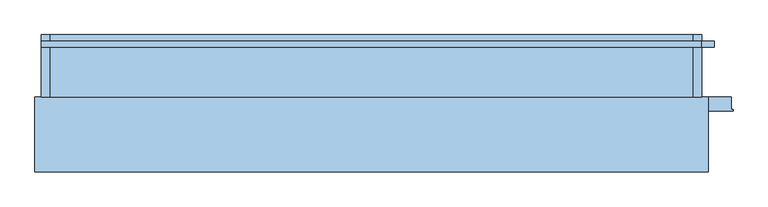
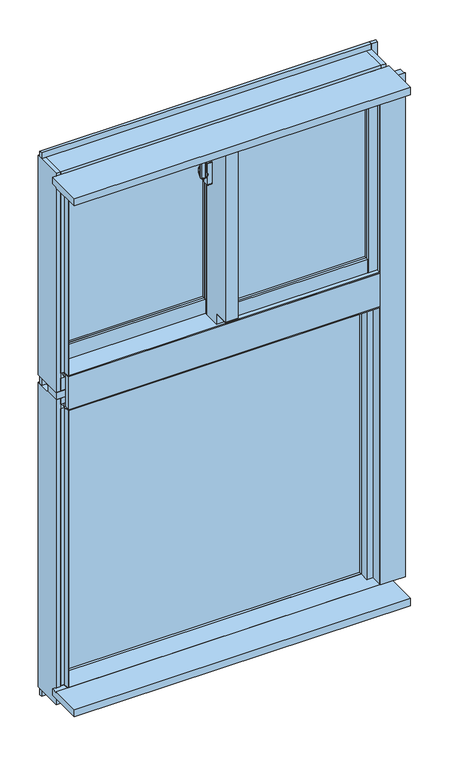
"""IFC4 building model written with IfcOpenShell, lengths in millimetres: window geometry, FNSⅡ100R_非防火_面付枠_段窓_分解無目 : たてすべりだし/FIX."""

from ifc_helpers import new_model, si_unit, point, frame, frame_2d, origin, place, context, project, spatial, polyline, circle_curve, trimmed, segment, composite_curve, outline, extrude, faceted_brep, source, transform, mapped, element, save
from ifc_brep_helpers import plane_surface, cylinder_surface, revolved_surface, advanced_brep


def window_47481d52(model_context):
    return source(origin(), model_context, "Body", "SolidModel", [
        extrude(outline(composite_curve([segment(polyline([(-39.0, 34.6), (-39.0, 26.4)]), True, "CONTINUOUS"), segment(trimmed(circle_curve(frame_2d((-41.0, 26.4)), 2.0), [point((-39.0, 26.4))], [point((-41.3606557, 24.4327869))], False, "CARTESIAN"), True, "CONTINUOUS"), segment(polyline([(-41.3606557, 24.4327869), (-52.3606557, 26.4494536)]), True, "CONTINUOUS"), segment(trimmed(circle_curve(frame_2d((-52.0, 28.4166667)), 2.0), [point((-52.3606557, 26.4494536))], [point((-54.0, 28.4166667))], False, "CARTESIAN"), True, "CONTINUOUS"), segment(polyline([(-54.0, 28.4166667), (-54.0, 32.5833333)]), True, "CONTINUOUS"), segment(trimmed(circle_curve(frame_2d((-52.0, 32.5833333)), 2.0), [point((-54.0, 32.5833333))], [point((-52.3606557, 34.5505464))], False, "CARTESIAN"), True, "CONTINUOUS"), segment(polyline([(-52.3606557, 34.5505464), (-41.3606557, 36.5672131)]), True, "CONTINUOUS"), segment(trimmed(circle_curve(frame_2d((-41.0, 34.6)), 2.0), [point((-41.3606557, 36.5672131))], [point((-39.0, 34.6))], False, "CARTESIAN"), True, "CONTINUOUS")], self_intersect=False)), frame((0.0, 0.0, 2450.0), z_axis=(0.0, 0.0, 1.0), x_axis=(1.0, 0.0, 0.0)), (0.0, 0.0, 1.0), 100.0),
        advanced_brep(
        [(-37.5, 38.8234285, 2481.7333311), (-45.5, 38.8234285, 2481.7333311), (-45.5, 38.4351999, 2480.2844424), (-39.0, 38.4351999, 2480.2844424), (-39.0, 36.6234666, 2473.5229616), (-37.5, 36.6234666, 2473.5229616), (-39.0, 36.6466117, 2439.3190372), (-45.5, 36.6466117, 2439.3190372), (-45.5, 36.907084, 2437.8418256), (-37.5, 36.907084, 2437.8418256), (-37.5, 35.4310745, 2446.2126915), (-39.0, 35.4310745, 2446.2126915)],
        [
            (0, 1),
            (1, 2),
            (2, 3),
            (3, 4),
            (4, 5),
            (5, 0),
            (6, 7),
            (7, 8),
            (8, 9),
            (9, 10),
            (10, 11),
            (11, 6),
            (0, 9, circle_curve(frame((-37.5, 33.0, 2460.0), z_axis=(-1.0, 0.0, 0.0), x_axis=(0.0, 0.25881904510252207, 0.965925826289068)), 22.5)),
            (8, 1, circle_curve(frame((-45.5, 33.0, 2460.0), z_axis=(1.0, 0.0, 0.0), x_axis=(0.0, 0.25881904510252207, 0.965925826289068)), 22.5)),
            (7, 2, circle_curve(frame((-45.5, 33.0, 2460.0), z_axis=(1.0, 0.0, 0.0), x_axis=(0.0, 0.25881904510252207, 0.965925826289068)), 21.0)),
            (6, 3, circle_curve(frame((-39.0, 33.0, 2460.0), z_axis=(1.0, 0.0, 0.0), x_axis=(0.0, 0.25881904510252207, 0.965925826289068)), 21.0)),
            (11, 4, circle_curve(frame((-39.0, 33.0, 2460.0), z_axis=(-1.0, 0.0, 0.0), x_axis=(0.0, -1.0, 0.0)), 14.0)),
            (5, 10, circle_curve(frame((-37.5, 33.0, 2460.0), z_axis=(1.0, 0.0, 0.0), x_axis=(0.0, -1.0, 0.0)), 14.0)),
        ],
        [
            plane_surface(frame((-43.5470497, 33.0, 2460.0), z_axis=(0.0, -0.965925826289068, 0.25881904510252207), x_axis=(0.0, 0.25881904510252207, 0.965925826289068))),
            plane_surface(frame((-43.5470497, 33.0, 2460.0), z_axis=(0.0, -0.9848077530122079, -0.17364817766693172), x_axis=(0.0, 0.17364817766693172, -0.9848077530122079))),
            cylinder_surface(frame((-43.5470497, 33.0, 2460.0), z_axis=(-1.0, 0.0, 0.0), x_axis=(0.0, 0.25881904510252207, 0.965925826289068)), 22.5),
            plane_surface(frame((-45.5, 33.0, 2460.0), z_axis=(-1.0, 0.0, 0.0), x_axis=(0.0, 0.25881904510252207, 0.965925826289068))),
            revolved_surface(polyline([(-45.5, 38.43519994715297, 2480.2844423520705), (-39.0, 38.43519994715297, 2480.2844423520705)]), (-43.5470497, 33.0, 2460.0), (-1.0, 0.0, 0.0)),
            plane_surface(frame((-39.0, 33.0, 2460.0), z_axis=(-1.0, 0.0, 0.0), x_axis=(0.0, 0.25881904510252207, 0.965925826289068))),
            plane_surface(frame((-37.5, 33.0, 2460.0), z_axis=(1.0, 0.0, 0.0), x_axis=(0.0, 0.25881904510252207, 0.965925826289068))),
            cylinder_surface(frame((-37.5, 33.0, 2460.0), z_axis=(-1.0, 0.0, 0.0), x_axis=(0.0, -1.0, 0.0)), 14.0),
        ],
        [
            (0, [[1, 2, 3, 4, 5, 6]]),
            (1, [[7, 8, 9, 10, 11, 12]]),
            (2, [[-1, 13, -9, 14]]),
            (3, [[-2, -14, -8, 15]]),
            (4, [[-3, -15, -7, 16]]),
            (5, [[-16, -12, 17, -4]]),
            (6, [[-13, -6, 18, -10]]),
            (7, [[-17, -11, -18, -5]]),
        ],
    ),
        extrude(outline(composite_curve([segment(trimmed(circle_curve(frame_2d((33.0, 2460.0)), 11.5), [point((44.5, 2460.0))], [point((21.5, 2460.0))], False, "CARTESIAN"), True, "CONTINUOUS"), segment(trimmed(circle_curve(frame_2d((33.0, 2460.0)), 11.5), [point((21.5, 2460.0))], [point((44.5, 2460.0))], False, "CARTESIAN"), True, "CONTINUOUS")], self_intersect=False)), frame((-37.5, 0.0, 0.0), z_axis=(1.0, 0.0, 0.0), x_axis=(0.0, 1.0, 0.0)), (0.0, 0.0, 1.0), 2.5),
        extrude(outline(composite_curve([segment(polyline([(24.0, 2497.5), (42.0, 2497.5)]), True, "CONTINUOUS"), segment(trimmed(circle_curve(frame_2d((42.0, 2495.5)), 2.0), [point((42.0, 2497.5))], [point((44.0, 2495.5))], False, "CARTESIAN"), True, "CONTINUOUS"), segment(polyline([(44.0, 2495.5), (44.0, 2424.5)]), True, "CONTINUOUS"), segment(trimmed(circle_curve(frame_2d((42.0, 2424.5)), 2.0), [point((44.0, 2424.5))], [point((42.0, 2422.5))], False, "CARTESIAN"), True, "CONTINUOUS"), segment(polyline([(42.0, 2422.5), (24.0, 2422.5)]), True, "CONTINUOUS"), segment(trimmed(circle_curve(frame_2d((24.0, 2424.5)), 2.0), [point((24.0, 2422.5))], [point((22.0, 2424.5))], False, "CARTESIAN"), True, "CONTINUOUS"), segment(polyline([(22.0, 2424.5), (22.0, 2495.5)]), True, "CONTINUOUS"), segment(trimmed(circle_curve(frame_2d((24.0, 2495.5)), 2.0), [point((22.0, 2495.5))], [point((24.0, 2497.5))], False, "CARTESIAN"), True, "CONTINUOUS")], self_intersect=False)), frame((-35.0, 0.0, 0.0), z_axis=(1.0, 0.0, 0.0), x_axis=(0.0, 1.0, 0.0)), (0.0, 0.0, 1.0), 15.0),
        extrude(outline(polyline([(20.0, 24.0), (468.0, 24.0), (468.0, 18.0), (20.0, 18.0), (20.0, 24.0)])), frame((0.0, 0.0, 2008.0), z_axis=(0.0, 0.0, 1.0), x_axis=(1.0, 0.0, 0.0)), (0.0, 0.0, 1.0), 562.0),
        extrude(outline(polyline([(20.0, 42.0), (468.0, 42.0), (468.0, 36.0), (20.0, 36.0), (20.0, 42.0)])), frame((0.0, 0.0, 2008.0), z_axis=(0.0, 0.0, 1.0), x_axis=(1.0, 0.0, 0.0)), (0.0, 0.0, 1.0), 562.0),
        extrude(outline(polyline([(-468.0, 82.0), (-20.0, 82.0), (-20.0, 76.0), (-468.0, 76.0), (-468.0, 82.0)])), frame((0.0, 0.0, 2008.0), z_axis=(0.0, 0.0, 1.0), x_axis=(1.0, 0.0, 0.0)), (0.0, 0.0, 1.0), 562.0),
        extrude(outline(polyline([(-468.0, 100.0), (-20.0, 100.0), (-20.0, 94.0), (-468.0, 94.0), (-468.0, 100.0)])), frame((0.0, 0.0, 2008.0), z_axis=(0.0, 0.0, 1.0), x_axis=(1.0, 0.0, 0.0)), (0.0, 0.0, 1.0), 562.0),
        faceted_brep([(-500.0, 79.0, 2610.0), (-489.5, 79.0, 2610.0), (-489.5, 66.0, 2610.0), (-468.0, 66.0, 2610.0), (-468.0, 108.0, 2610.0), (-500.0, 108.0, 2610.0), (-468.0, 66.0, 1960.0), (-468.0, 79.0, 1960.0), (-468.0, 79.0, 1920.0), (-468.0, 108.0, 1920.0), (-500.0, 79.0, 1920.0), (-500.0, 108.0, 1920.0), (-489.5, 79.0, 1960.0), (-489.5, 66.0, 1960.0)], [[[0, 1, 2, 3, 4, 5]], [[4, 3, 6, 7, 8, 9]], [[10, 0, 5, 11]], [[8, 10, 11, 9]], [[1, 0, 10, 8, 7, 12]], [[2, 1, 12, 13]], [[3, 2, 13, 6]], [[5, 4, 9, 11]], [[12, 7, 6, 13]]]),
        faceted_brep([(20.0, 79.0, 1960.0), (-20.0, 79.0, 1960.0), (-20.0, 79.0, 1920.0), (20.0, 79.0, 1920.0), (-20.0, 65.5, 2610.0), (-1.8, 65.5, 2610.0), (-1.8, 53.1, 2610.0), (20.0, 53.1, 2610.0), (20.0, 108.0, 2610.0), (-20.0, 108.0, 2610.0), (-20.0, 108.0, 1920.0), (20.0, 108.0, 1920.0), (-20.0, 65.5, 1960.0), (-1.8, 65.5, 1960.0), (-1.8, 53.1, 1960.0), (20.0, 53.1, 1960.0)], [[[0, 1, 2, 3]], [[4, 5, 6, 7, 8, 9]], [[10, 11, 3, 2]], [[5, 4, 12, 13]], [[6, 5, 13, 14]], [[7, 6, 14, 15]], [[8, 7, 15, 0, 3, 11]], [[9, 8, 11, 10]], [[4, 9, 10, 2, 1, 12]], [[1, 0, 15, 14, 13, 12]]]),
        faceted_brep([(-15.0, 53.1, 2610.0), (-20.0, 53.1, 2610.0), (-20.0, 0.0, 2610.0), (-15.0, 0.0, 2610.0), (20.0, 12.0, 2610.0), (15.0, 12.0, 2610.0), (15.0, 0.0, 2610.0), (20.0, 0.0, 2610.0), (-20.0, 53.1, 1960.0), (-20.0, 0.0, 1960.0), (-20.0, 0.0, 1996.5), (-20.0, -50.0, 1996.5), (-20.0, -50.0, 2581.0), (-20.0, 0.0, 2581.0), (15.0, -42.0, 2581.0), (15.0, -42.0, 1996.5), (-15.0, -42.0, 1996.5), (-15.0, -42.0, 2581.0), (-15.0, 53.1, 1960.0), (-15.0, 0.0, 2581.0), (-15.0, 0.0, 1996.5), (-15.0, 0.0, 1960.0), (15.0, 12.0, 1960.0), (20.0, 12.0, 1960.0), (20.0, 0.0, 1960.0), (15.0, 0.0, 1960.0), (20.0, -50.0, 1996.5), (20.0, -50.0, 2581.0), (20.0, 0.0, 2581.0), (20.0, 0.0, 1996.5), (15.0, 0.0, 1996.5), (15.0, 0.0, 2581.0)], [[[0, 1, 2, 3]], [[4, 5, 6, 7]], [[1, 8, 9, 10, 11, 12, 13, 2]], [[14, 15, 16, 17]], [[18, 0, 3, 19, 17, 16, 20, 21]], [[8, 18, 21, 9]], [[22, 23, 24, 25]], [[12, 11, 26, 27]], [[23, 4, 7, 28, 27, 26, 29, 24]], [[1, 0, 18, 8]], [[5, 4, 23, 22]], [[5, 22, 25, 30, 15, 14, 31, 6]], [[20, 10, 9, 21]], [[29, 30, 25, 24]], [[10, 20, 16, 15, 30, 29, 26, 11]], [[19, 13, 12, 27, 28, 31, 14, 17]], [[13, 19, 3, 2]], [[31, 28, 7, 6]]]),
        faceted_brep([(15.0, 12.0, 2610.0), (20.0, 12.0, 2610.0), (20.0, 53.1, 2610.0), (-15.0, 53.1, 2610.0), (-15.0, 0.0, 2610.0), (15.0, 0.0, 2610.0), (-15.0, -42.0, 2581.0), (-15.0, -42.0, 1996.5), (15.0, -42.0, 1996.5), (15.0, -42.0, 2581.0), (20.0, 53.1, 1960.0), (-15.0, 53.1, 1960.0), (15.0, 0.0, 2581.0), (-15.0, 0.0, 2581.0), (20.0, 12.0, 1960.0), (15.0, 12.0, 1960.0), (15.0, 0.0, 1960.0), (-15.0, 0.0, 1960.0), (-15.0, 0.0, 1996.5), (15.0, 0.0, 1996.5)], [[[0, 1, 2, 3, 4, 5]], [[6, 7, 8, 9]], [[3, 2, 10, 11]], [[12, 13, 6, 9]], [[11, 10, 14, 15, 16, 17]], [[3, 11, 17, 18, 7, 6, 13, 4]], [[2, 1, 14, 10]], [[19, 18, 17, 16]], [[18, 19, 8, 7]], [[13, 12, 5, 4]], [[15, 0, 5, 12, 9, 8, 19, 16]], [[1, 0, 15, 14]]]),
        extrude(outline(polyline([(468.0, 0.0), (468.0, 8.0), (489.5, 8.0), (489.5, 21.0), (497.0, 21.0), (497.0, 0.0), (468.0, 0.0)])), frame((0.0, 0.0, 1963.0), z_axis=(0.0, 0.0, 1.0), x_axis=(1.0, 0.0, 0.0)), (0.0, 0.0, 1.0), 647.0),
        extrude(outline(polyline([(468.0, 50.0), (500.0, 50.0), (500.0, 21.0), (489.5, 21.0), (489.5, 8.0), (468.0, 8.0), (468.0, 50.0)])), frame((0.0, 0.0, 1960.0), z_axis=(0.0, 0.0, 1.0), x_axis=(1.0, 0.0, 0.0)), (0.0, 0.0, 1.0), 650.0),
        extrude(outline(polyline([(-1.85, 65.5), (-1.85, 58.0), (-20.0, 58.0), (-20.0, 65.5), (-1.85, 65.5)])), frame((0.0, 0.0, 1960.0), z_axis=(0.0, 0.0, 1.0), x_axis=(1.0, 0.0, 0.0)), (0.0, 0.0, 1.0), 650.0),
        extrude(outline(polyline([(-497.0, 79.0), (-489.5, 79.0), (-489.5, 66.0), (-468.0, 66.0), (-468.0, 58.0), (-497.0, 58.0), (-497.0, 79.0)])), frame((0.0, 0.0, 1960.0), z_axis=(0.0, 0.0, 1.0), x_axis=(1.0, 0.0, 0.0)), (0.0, 0.0, 1.0), 650.0),
        extrude(outline(polyline([(2.0, 1963.0), (2.0, 2008.0), (10.0, 2008.0), (10.0, 1985.5), (21.0, 1985.5), (21.0, 1963.0), (2.0, 1963.0)])), frame((20.0, 0.0, 0.0), z_axis=(1.0, 0.0, 0.0), x_axis=(0.0, 1.0, 0.0)), (0.0, 0.0, 1.0), 448.0),
        extrude(outline(polyline([(50.0, 1960.0), (21.0, 1960.0), (21.0, 1985.5), (10.0, 1985.5), (10.0, 2008.0), (50.0, 2008.0), (50.0, 1960.0)])), frame((20.0, 0.0, 0.0), z_axis=(1.0, 0.0, 0.0), x_axis=(0.0, 1.0, 0.0)), (0.0, 0.0, 1.0), 448.0),
        extrude(outline(polyline([(60.0, 2008.0), (68.0, 2008.0), (68.0, 1985.5), (79.0, 1985.5), (79.0, 1960.0), (60.0, 1960.0), (60.0, 2008.0)])), frame((-468.0, 0.0, 0.0), z_axis=(1.0, 0.0, 0.0), x_axis=(0.0, 1.0, 0.0)), (0.0, 0.0, 1.0), 448.0),
        extrude(outline(polyline([(108.0, 1920.0), (79.0, 1920.0), (79.0, 1985.5), (68.0, 1985.5), (68.0, 2008.0), (108.0, 2008.0), (108.0, 1920.0)])), frame((-468.0, 0.0, 0.0), z_axis=(1.0, 0.0, 0.0), x_axis=(0.0, 1.0, 0.0)), (0.0, 0.0, 1.0), 448.0),
        extrude(outline(polyline([(23.0, 2590.5), (10.0, 2590.5), (10.0, 2570.0), (2.0, 2570.0), (2.0, 2610.0), (23.0, 2610.0), (23.0, 2590.5)])), frame((20.0, 0.0, 0.0), z_axis=(1.0, 0.0, 0.0), x_axis=(0.0, 1.0, 0.0)), (0.0, 0.0, 1.0), 448.0),
        extrude(outline(polyline([(50.0, 2610.0), (50.0, 2570.0), (10.0, 2570.0), (10.0, 2590.5), (23.0, 2590.5), (23.0, 2610.0), (50.0, 2610.0)])), frame((20.0, 0.0, 0.0), z_axis=(1.0, 0.0, 0.0), x_axis=(0.0, 1.0, 0.0)), (0.0, 0.0, 1.0), 448.0),
        extrude(outline(polyline([(81.0, 2590.5), (68.0, 2590.5), (68.0, 2570.0), (60.0, 2570.0), (60.0, 2610.0), (81.0, 2610.0), (81.0, 2590.5)])), frame((-468.0, 0.0, 0.0), z_axis=(1.0, 0.0, 0.0), x_axis=(0.0, 1.0, 0.0)), (0.0, 0.0, 1.0), 448.0),
        extrude(outline(polyline([(108.0, 2610.0), (108.0, 2570.0), (68.0, 2570.0), (68.0, 2590.5), (81.0, 2590.5), (81.0, 2610.0), (108.0, 2610.0)])), frame((-468.0, 0.0, 0.0), z_axis=(1.0, 0.0, 0.0), x_axis=(0.0, 1.0, 0.0)), (0.0, 0.0, 1.0), 448.0),
        extrude(outline(polyline([(0.0, 2581.0), (-50.0, 2581.0), (-50.0, 2582.0), (-1.0, 2582.0), (-1.0, 2610.0), (0.0, 2610.0), (0.0, 2581.0)])), frame((-20.0, 0.0, 0.0), z_axis=(1.0, 0.0, 0.0), x_axis=(0.0, 1.0, 0.0)), (0.0, 0.0, 1.0), 40.0),
        extrude(outline(polyline([(0.0, 1996.5), (0.0, 1960.0), (-1.0, 1960.0), (-1.0, 1995.5), (-50.0, 1995.5), (-50.0, 1996.5), (0.0, 1996.5)])), frame((-20.0, 0.0, 0.0), z_axis=(1.0, 0.0, 0.0), x_axis=(0.0, 1.0, 0.0)), (0.0, 0.0, 1.0), 40.0),
        extrude(outline(polyline([(-15.0, 80.3), (-15.0, 31.9), (-500.0, 31.9), (-500.0, 80.3), (-15.0, 80.3)])), frame((0.0, 0.0, 2610.0), z_axis=(0.0, 0.0, 1.0), x_axis=(1.0, 0.0, 0.0)), (0.0, 0.0, 1.0), 25.0),
        faceted_brep([(515.0, 80.3, 2610.0), (515.0, 80.3, 2635.0), (500.0, 80.3, 2635.0), (500.0, 80.3, 2610.0), (-515.0, 80.3, 2635.0), (-515.0, 80.3, 2610.0), (-15.0, 80.3, 2610.0), (-15.0, 80.3, 2635.0), (515.0, 10.0, 2635.0), (-515.0, 10.0, 2635.0), (-15.0, 31.9, 2635.0), (500.0, 31.9, 2635.0), (515.0, 110.0, 2610.0), (500.0, 31.9, 2610.0), (-15.0, 31.9, 2610.0), (-515.0, 110.0, 2610.0), (515.0, 110.0, 2645.0), (-515.0, 110.0, 2645.0), (515.0, 10.0, 2645.0), (-515.0, 10.0, 2645.0)], [[[0, 1, 2, 3]], [[4, 5, 6, 7]], [[1, 8, 9, 4, 7, 10, 11, 2]], [[12, 0, 3, 13, 14, 6, 5, 15]], [[16, 12, 15, 17]], [[18, 16, 17, 19]], [[8, 18, 19, 9]], [[12, 16, 18, 8, 1, 0]], [[15, 5, 4, 9, 19, 17]], [[11, 13, 3, 2]], [[6, 14, 10, 7]], [[13, 11, 10, 14]]]),
        extrude(outline(polyline([(31.9, 2610.0), (-10.0, 2610.0), (-10.0, 2613.0), (10.0, 2613.0), (10.0, 2635.0), (31.9, 2635.0), (31.9, 2610.0)])), frame((-500.0, 0.0, 0.0), z_axis=(1.0, 0.0, 0.0), x_axis=(0.0, 1.0, 0.0)), (0.0, 0.0, 1.0), 1000.0),
        faceted_brep([(500.0, 10.0, 2630.0), (500.0, 10.0, 2613.0), (503.0, 10.0, 2613.0), (503.0, 10.0, 1960.0), (515.0, 10.0, 1960.0), (515.0, 10.0, 2630.0), (500.0, 14.5, 1960.0), (500.0, -10.0, 1960.0), (500.0, -10.0, 2613.0), (500.0, 14.5, 2630.0), (515.0, 14.5, 1960.0), (503.0, -10.0, 1960.0), (503.0, -10.0, 2613.0), (515.0, 14.5, 2630.0)], [[[0, 1, 2, 3, 4, 5]], [[6, 7, 8, 1, 0, 9]], [[7, 6, 10, 4, 3, 11]], [[11, 3, 2, 12]], [[7, 11, 12, 8]], [[0, 5, 13, 9]], [[13, 5, 4, 10]], [[9, 13, 10, 6]], [[2, 1, 8, 12]]]),
        faceted_brep([(-515.0, 76.0, 2630.0), (-500.0, 76.0, 2630.0), (-500.0, 76.0, 1960.0), (-515.0, 76.0, 1960.0), (-515.0, 10.0, 1960.0), (-500.0, -10.0, 1960.0), (-503.0, -10.0, 1960.0), (-503.0, 10.0, 1960.0), (-503.0, 10.0, 2613.0), (-500.0, 10.0, 2613.0), (-500.0, 10.0, 2630.0), (-515.0, 10.0, 2630.0), (-503.0, -10.0, 2613.0), (-500.0, -10.0, 2613.0)], [[[0, 1, 2, 3]], [[4, 3, 2, 5, 6, 7]], [[4, 7, 8, 9, 10, 11]], [[11, 10, 1, 0]], [[7, 6, 12, 8]], [[6, 5, 13, 12]], [[5, 2, 1, 10, 9, 13]], [[4, 11, 0, 3]], [[9, 8, 12, 13]]]),
        faceted_brep([(500.0, 14.5, 2610.0), (500.0, 110.0, 2610.0), (500.0, 110.0, 1909.0), (500.0, 14.5, 1909.0), (515.0, 14.5, 2610.0), (515.0, 14.5, 1909.0), (515.0, 10.0, 2645.0), (530.0, 10.0, 2645.0), (530.0, 110.0, 2645.0), (515.0, 110.0, 2645.0), (515.0, 10.0, 1900.0), (515.0, 110.0, 1900.0), (530.0, 110.0, 1900.0), (530.0, 10.0, 1900.0), (515.0, 110.0, 2610.0), (515.0, 110.0, 1909.0)], [[[0, 1, 2, 3]], [[4, 0, 3, 5]], [[6, 7, 8, 9]], [[10, 11, 12, 13]], [[0, 4, 14, 1]], [[3, 2, 15, 5]], [[7, 6, 10, 13]], [[8, 7, 13, 12]], [[9, 8, 12, 11, 15, 2, 1, 14]], [[6, 9, 14, 4, 5, 15, 11, 10]]]),
        faceted_brep([(-530.0, 10.0, 2645.0), (-530.0, 110.0, 2645.0), (-530.0, 110.0, 1900.0), (-530.0, 10.0, 1900.0), (-515.0, 110.0, 2645.0), (-515.0, 10.0, 2645.0), (-515.0, 10.0, 1900.0), (-515.0, 110.0, 1900.0), (-515.0, 110.0, 1909.0), (-515.0, 76.0, 1909.0), (-515.0, 76.0, 2610.0), (-515.0, 110.0, 2610.0), (-500.0, 110.0, 2610.0), (-500.0, 110.0, 1909.0), (-500.0, 76.0, 2610.0), (-500.0, 76.0, 1909.0)], [[[0, 1, 2, 3]], [[4, 5, 6, 7, 8, 9, 10, 11]], [[1, 0, 5, 4]], [[2, 7, 6, 3]], [[5, 0, 3, 6]], [[1, 4, 11, 12, 13, 8, 7, 2]], [[12, 11, 10, 14]], [[13, 15, 9, 8]], [[14, 10, 9, 15]], [[12, 14, 15, 13]]]),
        faceted_brep([(515.0, 76.0, 1909.0), (515.0, 110.0, 1909.0), (-515.0, 110.0, 1909.0), (-515.0, 76.0, 1909.0), (515.0, 10.0, 1944.0), (515.0, 76.0, 1944.0), (-515.0, 76.0, 1944.0), (-515.0, 10.0, 1944.0), (500.0, 37.25, 1944.0), (500.0, 18.8, 1944.0), (-15.0, 18.8, 1944.0), (-15.0, 37.25, 1944.0), (515.0, 110.0, 1900.0), (515.0, 10.0, 1900.0), (-515.0, 10.0, 1900.0), (-515.0, 110.0, 1900.0), (500.0, 18.8, 1960.0), (500.0, 37.25, 1960.0), (-15.0, 18.8, 1960.0), (-15.0, 37.25, 1960.0)], [[[0, 1, 2, 3]], [[4, 5, 6, 7], [8, 9, 10, 11]], [[5, 0, 3, 6]], [[12, 13, 14, 15]], [[12, 1, 0, 5, 4, 13]], [[15, 14, 7, 6, 3, 2]], [[13, 4, 7, 14]], [[1, 12, 15, 2]], [[16, 9, 8, 17]], [[18, 19, 11, 10]], [[9, 16, 18, 10]], [[17, 8, 11, 19]], [[16, 17, 19, 18]]]),
        faceted_brep([(503.0, -10.0, 1960.0), (503.0, -10.0, 1957.0), (503.0, 10.0, 1957.0), (503.0, 10.0, 1944.0), (503.0, 14.5, 1944.0), (503.0, 14.5, 1960.0), (-503.0, 10.0, 1944.0), (-503.0, 10.0, 1957.0), (-503.0, -10.0, 1957.0), (-503.0, -10.0, 1960.0), (-503.0, 18.8, 1960.0), (-503.0, 18.8, 1944.0), (500.0, 14.5, 1960.0), (500.0, 18.8, 1960.0), (-15.0, 18.8, 1960.0), (-15.0, 76.0, 1960.0), (-500.0, 76.0, 1960.0), (-500.0, 18.8, 1960.0), (500.0, 14.5, 1944.0), (-500.0, 18.8, 1944.0), (500.0, 18.8, 1944.0), (-15.0, 18.8, 1944.0), (-500.0, 76.0, 1944.0), (-15.0, 76.0, 1944.0)], [[[0, 1, 2, 3, 4, 5]], [[6, 7, 8, 9, 10, 11]], [[3, 2, 7, 6]], [[2, 1, 8, 7]], [[1, 0, 9, 8]], [[10, 9, 0, 5, 12, 13, 14, 15, 16, 17]], [[18, 12, 5, 4]], [[11, 10, 17, 19]], [[13, 20, 21, 14]], [[6, 11, 19, 22, 23, 21, 20, 18, 4, 3]], [[12, 18, 20, 13]], [[15, 14, 21, 23]], [[16, 22, 19, 17]], [[15, 23, 22, 16]]]),
        extrude(outline(polyline([(-480.0, 75.6), (480.0, 75.6), (480.0, 69.6), (-480.0, 69.6), (-480.0, 75.6)])), frame((0.0, 0.0, 900.0), z_axis=(0.0, 0.0, 1.0), x_axis=(1.0, 0.0, 0.0)), (0.0, 0.0, 1.0), 920.0),
        extrude(outline(polyline([(-480.0, 93.6), (480.0, 93.6), (480.0, 87.6), (-480.0, 87.6), (-480.0, 93.6)])), frame((0.0, 0.0, 900.0), z_axis=(0.0, 0.0, 1.0), x_axis=(1.0, 0.0, 0.0)), (0.0, 0.0, 1.0), 920.0),
        faceted_brep([(-530.0, 110.0, 1875.0), (-530.0, 10.0, 1875.0), (-515.0, 10.0, 1875.0), (-515.0, 110.0, 1875.0), (-530.0, 110.0, 840.0), (-515.0, 110.0, 840.0), (-515.0, 10.0, 840.0), (-530.0, 10.0, 840.0), (-515.0, 110.0, 900.0), (-515.0, 60.0, 900.0), (-515.0, 60.0, 1820.0), (-515.0, 110.0, 1820.0), (-480.0, 110.0, 1820.0), (-480.0, 110.0, 900.0), (-480.0, 60.0, 1820.0), (-480.0, 60.0, 900.0)], [[[0, 1, 2, 3]], [[4, 5, 6, 7]], [[1, 0, 4, 7]], [[2, 1, 7, 6]], [[3, 2, 6, 5, 8, 9, 10, 11]], [[0, 3, 11, 12, 13, 8, 5, 4]], [[12, 11, 10, 14]], [[13, 15, 9, 8]], [[14, 10, 9, 15]], [[12, 14, 15, 13]]]),
        faceted_brep([(530.0, 110.0, 1875.0), (515.0, 110.0, 1875.0), (515.0, 10.0, 1875.0), (530.0, 10.0, 1875.0), (530.0, 110.0, 840.0), (530.0, 10.0, 840.0), (515.0, 10.0, 840.0), (515.0, 110.0, 840.0), (515.0, 110.0, 900.0), (480.0, 110.0, 900.0), (480.0, 110.0, 1820.0), (515.0, 110.0, 1820.0), (515.0, 60.0, 1820.0), (515.0, 60.0, 900.0), (480.0, 60.0, 1820.0), (480.0, 60.0, 900.0)], [[[0, 1, 2, 3]], [[4, 5, 6, 7]], [[1, 0, 4, 7, 8, 9, 10, 11]], [[2, 1, 11, 12, 13, 8, 7, 6]], [[3, 2, 6, 5]], [[0, 3, 5, 4]], [[11, 10, 14, 12]], [[13, 15, 9, 8]], [[14, 10, 9, 15]], [[12, 14, 15, 13]]]),
        extrude(outline(polyline([(500.0, -10.0), (500.0, 28.5), (480.0, 28.5), (480.0, 60.0), (515.0, 60.0), (515.0, 10.0), (503.0, 10.0), (503.0, -10.0), (500.0, -10.0)])), frame((0.0, 0.0, 900.0), z_axis=(0.0, 0.0, 1.0), x_axis=(1.0, 0.0, 0.0)), (0.0, 0.0, 1.0), 940.0),
        extrude(outline(polyline([(-515.0, 10.0), (-515.0, 60.0), (-480.0, 60.0), (-480.0, 28.5), (-500.0, 28.5), (-500.0, -10.0), (-503.0, -10.0), (-503.0, 10.0), (-515.0, 10.0)])), frame((0.0, 0.0, 900.0), z_axis=(0.0, 0.0, 1.0), x_axis=(1.0, 0.0, 0.0)), (0.0, 0.0, 1.0), 940.0),
        extrude(outline(polyline([(10.0, 884.0), (10.0, 897.0), (-10.0, 897.0), (-10.0, 900.0), (60.0, 900.0), (60.0, 884.0), (10.0, 884.0)])), frame((-503.0, 0.0, 0.0), z_axis=(1.0, 0.0, 0.0), x_axis=(0.0, 1.0, 0.0)), (0.0, 0.0, 1.0), 1006.0),
        extrude(outline(polyline([(110.0, 840.0), (10.0, 840.0), (10.0, 884.0), (60.0, 884.0), (60.0, 900.0), (110.0, 900.0), (110.0, 870.0), (91.0, 870.0), (91.0, 850.0), (110.0, 850.0), (110.0, 840.0)])), frame((-515.0, 0.0, 0.0), z_axis=(1.0, 0.0, 0.0), x_axis=(0.0, 1.0, 0.0)), (0.0, 0.0, 1.0), 1030.0),
        extrude(outline(polyline([(60.0, 1817.0), (26.0, 1817.0), (26.0, 1840.0), (-10.0, 1840.0), (-10.0, 1843.0), (10.0, 1843.0), (10.0, 1855.0), (60.0, 1855.0), (60.0, 1817.0)])), frame((-503.0, 0.0, 0.0), z_axis=(1.0, 0.0, 0.0), x_axis=(0.0, 1.0, 0.0)), (0.0, 0.0, 1.0), 1006.0),
        extrude(outline(polyline([(110.0, 1820.0), (60.0, 1820.0), (60.0, 1855.0), (10.0, 1855.0), (10.0, 1875.0), (110.0, 1875.0), (110.0, 1820.0)])), frame((-515.0, 0.0, 0.0), z_axis=(1.0, 0.0, 0.0), x_axis=(0.0, 1.0, 0.0)), (0.0, 0.0, 1.0), 1030.0),
        extrude(outline(polyline([(-110.0, 900.0), (-10.0, 900.0), (-10.0, 897.0), (10.0, 897.0), (10.0, 875.0), (-110.0, 875.0), (-110.0, 900.0)])), frame((-540.0, 0.0, 0.0), z_axis=(1.0, 0.0, 0.0), x_axis=(0.0, 1.0, 0.0)), (0.0, 0.0, 1.0), 1080.0),
        extrude(outline(polyline([(-530.0, 90.0), (-530.0, 100.0), (530.0, 100.0), (530.0, 90.0), (-530.0, 90.0)])), frame((0.0, 0.0, 820.0), z_axis=(0.0, 0.0, 1.0), x_axis=(1.0, 0.0, 0.0)), (0.0, 0.0, 1.0), 20.0),
        extrude(outline(polyline([(550.0, 90.0), (530.0, 90.0), (530.0, 100.0), (550.0, 100.0), (550.0, 90.0)])), frame((0.0, 0.0, 820.0), z_axis=(0.0, 0.0, 1.0), x_axis=(1.0, 0.0, 0.0)), (0.0, 0.0, 1.0), 1845.0),
        extrude(outline(polyline([(503.0, -10.0), (503.0, 10.0), (577.0, 10.0), (577.0, -10.0), (580.0, -10.0), (580.0, -12.5), (500.0, -12.5), (500.0, -10.0), (503.0, -10.0)])), frame((0.0, 0.0, 900.0), z_axis=(0.0, 0.0, 1.0), x_axis=(1.0, 0.0, 0.0)), (0.0, 0.0, 1.0), 1710.0),
        extrude(outline(polyline([(10.0, 2613.0), (-10.0, 2613.0), (-10.0, 2610.0), (-110.0, 2610.0), (-110.0, 2635.0), (10.0, 2635.0), (10.0, 2613.0)])), frame((-540.0, 0.0, 0.0), z_axis=(1.0, 0.0, 0.0), x_axis=(0.0, 1.0, 0.0)), (0.0, 0.0, 1.0), 1080.0),
        extrude(outline(polyline([(-530.0, 90.0), (-530.0, 100.0), (530.0, 100.0), (530.0, 90.0), (-530.0, 90.0)])), frame((0.0, 0.0, 1875.0), z_axis=(0.0, 0.0, 1.0), x_axis=(1.0, 0.0, 0.0)), (0.0, 0.0, 1.0), 25.0),
        extrude(outline(polyline([(-500.0, -10.0), (-500.0, 10.0), (500.0, 10.0), (500.0, -10.0), (-500.0, -10.0)])), frame((0.0, 0.0, 1843.0), z_axis=(0.0, 0.0, 1.0), x_axis=(1.0, 0.0, 0.0)), (0.0, 0.0, 1.0), 114.0),
        extrude(outline(polyline([(-530.0, 10.0), (-530.0, 53.5), (530.0, 53.5), (530.0, 10.0), (-530.0, 10.0)])), frame((0.0, 0.0, 1875.0), z_axis=(0.0, 0.0, 1.0), x_axis=(1.0, 0.0, 0.0)), (0.0, 0.0, 1.0), 25.0),
        extrude(outline(polyline([(-530.0, 90.0), (-530.0, 100.0), (530.0, 100.0), (530.0, 90.0), (-530.0, 90.0)])), frame((0.0, 0.0, 2645.0), z_axis=(0.0, 0.0, 1.0), x_axis=(1.0, 0.0, 0.0)), (0.0, 0.0, 1.0), 20.0),
    ])


if __name__ == "__main__":
    model = new_model("IFC4")
    model_context = context("Model", 3, world=origin())
    ifc_project = project(units=[si_unit("LENGTHUNIT", "METRE", prefix="MILLI")], contexts=[model_context])
    site = spatial("IfcSite", under=ifc_project)
    building = spatial("IfcBuilding", under=site)
    placement = place(None, origin())
    window_shape = window_47481d52(model_context)
    element("IfcWindow", 1, ObjectType="FNSⅡ100R_非防火_面付枠_段窓_分解無目 : たてすべりだし/FIX", at=placement, inside=building, context=model_context, shape_type="MappedRepresentation", body=[
        mapped(window_shape, transform((0.0, 0.0, 0.0), x_axis=(1.0, 0.0, 0.0), y_axis=(0.0, 1.0, 0.0), z_axis=(0.0, 0.0, 1.0))),
    ])
    save(model, "model.ifc")
